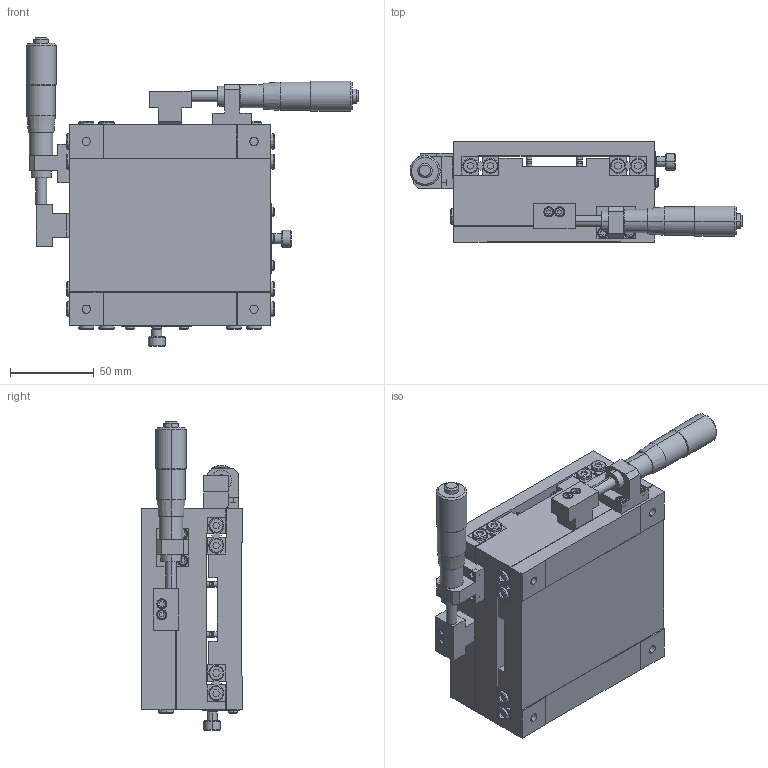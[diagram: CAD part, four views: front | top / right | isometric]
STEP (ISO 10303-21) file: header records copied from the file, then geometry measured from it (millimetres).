
FILE_DESCRIPTION (( 'STEP AP203' ), '1' );
FILE_NAME ('MY120-AS.STEP', '2008-08-02T05:08:18', ( '陳志豪' ), ( '高明鐵企業股份有限公司' ), 'SwSTEP 2.0', 'SolidWorks 2007', '' );
FILE_SCHEMA (( 'CONFIG_CONTROL_DESIGN' ));
Length unit declared in the file: millimetre
Products named in the file (1): MY120-AS
Bounding box: 198 x 60 x 184.2 mm (x, y, z)
Volume: 861005.3 mm3; surface area: 205180.9 mm2
Topology: 26 solids, 26 shells, 1202 faces, 2959 edges, 1937 vertices
Faces by surface type: plane 741, cylinder 282, bspline 91, cone 88
Entity records: 40359 total; most frequent: CARTESIAN_POINT 11718, ORIENTED_EDGE 5918, DIRECTION 5660, EDGE_CURVE 2959, VECTOR 2118, LINE 2118, VERTEX_POINT 1937, AXIS2_PLACEMENT_3D 1771
